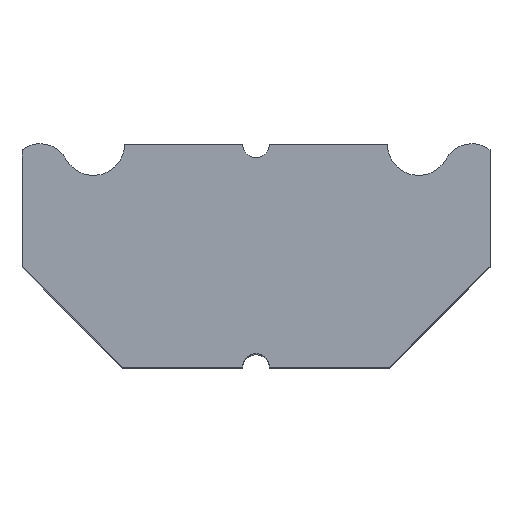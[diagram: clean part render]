
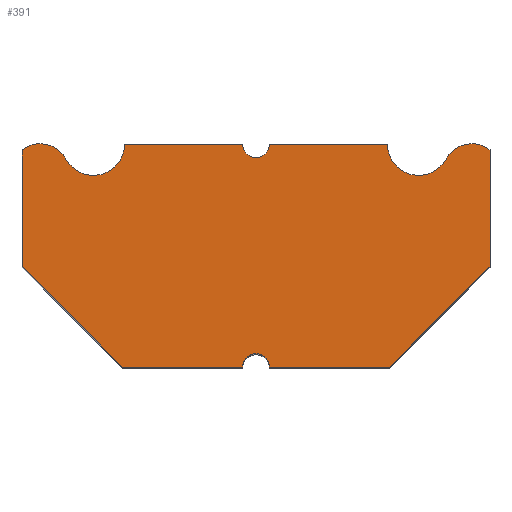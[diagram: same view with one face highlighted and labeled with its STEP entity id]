
A CAD part, top view. The second image highlights one B-rep face of the part: STEP entity #391.
In plain terms, the highlighted planar face has unit normal (0, 0, 1).
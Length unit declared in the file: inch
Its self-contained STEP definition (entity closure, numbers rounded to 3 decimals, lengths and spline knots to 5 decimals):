
#24=PLANE('',#450);
#43=FACE_OUTER_BOUND('',#62,.T.);
#62=EDGE_LOOP('',(#350,#351,#352,#353,#354,#355,#356,#357,#358,#359,#360,
#361,#362,#363));
#67=LINE('',#661,#102);
#73=LINE('',#675,#108);
#83=LINE('',#706,#118);
#87=LINE('',#718,#122);
#89=LINE('',#721,#124);
#91=LINE('',#728,#126);
#93=LINE('',#732,#128);
#95=LINE('',#736,#130);
#102=VECTOR('',#473,0.3937);
#108=VECTOR('',#485,0.3937);
#118=VECTOR('',#515,0.3937);
#122=VECTOR('',#529,0.3937);
#124=VECTOR('',#533,0.3937);
#126=VECTOR('',#541,0.3937);
#128=VECTOR('',#545,0.3937);
#130=VECTOR('',#549,0.3937);
#145=CIRCLE('',#433,0.01181);
#146=CIRCLE('',#436,0.02756);
#147=CIRCLE('',#438,0.02598);
#148=CIRCLE('',#442,0.01181);
#149=CIRCLE('',#447,0.02598);
#150=CIRCLE('',#449,0.02756);
#167=VERTEX_POINT('',#658);
#168=VERTEX_POINT('',#660);
#172=VERTEX_POINT('',#672);
#173=VERTEX_POINT('',#674);
#183=VERTEX_POINT('',#701);
#184=VERTEX_POINT('',#705);
#185=VERTEX_POINT('',#709);
#186=VERTEX_POINT('',#713);
#187=VERTEX_POINT('',#717);
#188=VERTEX_POINT('',#723);
#189=VERTEX_POINT('',#727);
#190=VERTEX_POINT('',#731);
#191=VERTEX_POINT('',#735);
#192=VERTEX_POINT('',#739);
#207=EDGE_CURVE('',#168,#167,#67,.T.);
#214=EDGE_CURVE('',#173,#172,#73,.T.);
#228=EDGE_CURVE('',#183,#173,#145,.T.);
#230=EDGE_CURVE('',#184,#183,#83,.T.);
#232=EDGE_CURVE('',#185,#184,#146,.T.);
#234=EDGE_CURVE('',#186,#185,#147,.T.);
#236=EDGE_CURVE('',#187,#186,#87,.T.);
#238=EDGE_CURVE('',#167,#187,#89,.T.);
#239=EDGE_CURVE('',#188,#168,#148,.T.);
#241=EDGE_CURVE('',#189,#188,#91,.T.);
#243=EDGE_CURVE('',#190,#189,#93,.T.);
#245=EDGE_CURVE('',#191,#190,#95,.T.);
#247=EDGE_CURVE('',#192,#191,#149,.T.);
#249=EDGE_CURVE('',#172,#192,#150,.T.);
#350=ORIENTED_EDGE('',*,*,#214,.T.);
#351=ORIENTED_EDGE('',*,*,#249,.T.);
#352=ORIENTED_EDGE('',*,*,#247,.T.);
#353=ORIENTED_EDGE('',*,*,#245,.T.);
#354=ORIENTED_EDGE('',*,*,#243,.T.);
#355=ORIENTED_EDGE('',*,*,#241,.T.);
#356=ORIENTED_EDGE('',*,*,#239,.T.);
#357=ORIENTED_EDGE('',*,*,#207,.T.);
#358=ORIENTED_EDGE('',*,*,#238,.T.);
#359=ORIENTED_EDGE('',*,*,#236,.T.);
#360=ORIENTED_EDGE('',*,*,#234,.T.);
#361=ORIENTED_EDGE('',*,*,#232,.T.);
#362=ORIENTED_EDGE('',*,*,#230,.T.);
#363=ORIENTED_EDGE('',*,*,#228,.T.);
#391=ADVANCED_FACE('',(#43),#24,.T.);
#433=AXIS2_PLACEMENT_3D('',#702,#510,#511);
#436=AXIS2_PLACEMENT_3D('',#710,#519,#520);
#438=AXIS2_PLACEMENT_3D('',#714,#524,#525);
#442=AXIS2_PLACEMENT_3D('',#724,#536,#537);
#447=AXIS2_PLACEMENT_3D('',#740,#553,#554);
#449=AXIS2_PLACEMENT_3D('',#743,#558,#559);
#450=AXIS2_PLACEMENT_3D('',#744,#560,#561);
#473=DIRECTION('',(1.,0.,0.));
#485=DIRECTION('',(-1.,0.,0.));
#510=DIRECTION('center_axis',(0.,0.,-1.));
#511=DIRECTION('ref_axis',(-1.,0.,0.));
#515=DIRECTION('',(-1.,0.,0.));
#519=DIRECTION('center_axis',(0.,0.,-1.));
#520=DIRECTION('ref_axis',(-1.,0.,0.));
#524=DIRECTION('center_axis',(0.,0.,1.));
#525=DIRECTION('ref_axis',(-0.614,-0.789,0.));
#529=DIRECTION('',(0.,1.,0.));
#533=DIRECTION('',(0.707,0.707,0.));
#536=DIRECTION('center_axis',(0.,0.,-1.));
#537=DIRECTION('ref_axis',(1.,0.,0.));
#541=DIRECTION('',(1.,0.,0.));
#545=DIRECTION('',(0.707,-0.707,0.));
#549=DIRECTION('',(0.,-1.,0.));
#553=DIRECTION('center_axis',(0.,0.,1.));
#554=DIRECTION('ref_axis',(-0.878,-0.478,0.));
#558=DIRECTION('center_axis',(0.,0.,-1.));
#559=DIRECTION('ref_axis',(-0.878,-0.478,0.));
#560=DIRECTION('center_axis',(0.,0.,1.));
#561=DIRECTION('ref_axis',(1.,0.,0.));
#658=CARTESIAN_POINT('',(0.11811,-0.09843,0.29528));
#660=CARTESIAN_POINT('',(0.01181,-0.09843,0.29528));
#661=CARTESIAN_POINT('',(0.11811,-0.09843,0.29528));
#672=CARTESIAN_POINT('',(-0.11614,0.09843,0.29528));
#674=CARTESIAN_POINT('',(-0.01181,0.09843,0.29528));
#675=CARTESIAN_POINT('',(-0.11614,0.09843,0.29528));
#701=CARTESIAN_POINT('',(0.01181,0.09843,0.29528));
#702=CARTESIAN_POINT('Origin',(0.,0.09843,0.29528));
#705=CARTESIAN_POINT('',(0.11614,0.09843,0.29528));
#706=CARTESIAN_POINT('',(0.01181,0.09843,0.29528));
#709=CARTESIAN_POINT('',(0.16791,0.08525,0.29528));
#710=CARTESIAN_POINT('Origin',(0.1437,0.09843,0.29528));
#713=CARTESIAN_POINT('',(0.20669,0.09334,0.29528));
#714=CARTESIAN_POINT('Origin',(0.19073,0.07283,0.29528));
#717=CARTESIAN_POINT('',(0.20669,-0.00984,0.29528));
#718=CARTESIAN_POINT('',(0.20669,0.09334,0.29528));
#721=CARTESIAN_POINT('',(0.20669,-0.00984,0.29528));
#723=CARTESIAN_POINT('',(-0.01181,-0.09843,0.29528));
#724=CARTESIAN_POINT('Origin',(0.,-0.09843,
0.29528));
#727=CARTESIAN_POINT('',(-0.11811,-0.09843,0.29528));
#728=CARTESIAN_POINT('',(-0.01181,-0.09843,0.29528));
#731=CARTESIAN_POINT('',(-0.20669,-0.00984,0.29528));
#732=CARTESIAN_POINT('',(-0.11811,-0.09843,0.29528));
#735=CARTESIAN_POINT('',(-0.20669,0.09334,0.29528));
#736=CARTESIAN_POINT('',(-0.20669,-0.00984,0.29528));
#739=CARTESIAN_POINT('',(-0.16791,0.08525,0.29528));
#740=CARTESIAN_POINT('Origin',(-0.19073,0.07283,0.29528));
#743=CARTESIAN_POINT('Origin',(-0.1437,0.09843,0.29528));
#744=CARTESIAN_POINT('Origin',(0.,0.00875,
0.29528));
